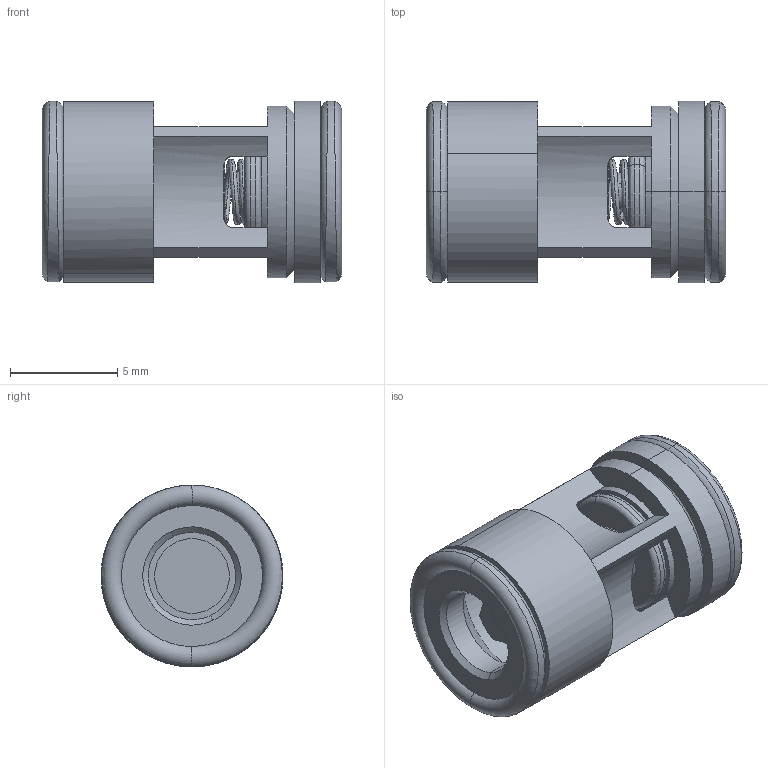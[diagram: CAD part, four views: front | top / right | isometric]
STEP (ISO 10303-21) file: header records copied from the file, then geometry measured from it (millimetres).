
FILE_DESCRIPTION (( 'STEP AP214' ), '1' );
FILE_NAME ('ICS-B-02-NXXX-C~.STEP', '2025-03-12T15:56:29', ( '' ), ( '' ), 'SwSTEP 2.0', 'SolidWorks 2023', '' );
FILE_SCHEMA (( 'AUTOMOTIVE_DESIGN' ));
Length unit declared in the file: inch
Products named in the file (1): ICS-B-02-NXXX-C~
Bounding box: 13.94 x 8.46 x 8.46 mm (x, y, z)
Surface area: 1024.4 mm2 (no closed solid volume)
Topology: 0 solids, 9 shells, 90 faces, 258 edges, 164 vertices
Faces by surface type: cylinder 35, torus 22, plane 17, cone 12, bspline 4
Entity records: 6879 total; most frequent: CARTESIAN_POINT 5035, ORIENTED_EDGE 442, EDGE_CURVE 258, B_SPLINE_CURVE_WITH_KNOTS 244, DIRECTION 188, VERTEX_POINT 164, EDGE_LOOP 100, AXIS2_PLACEMENT_3D 91
